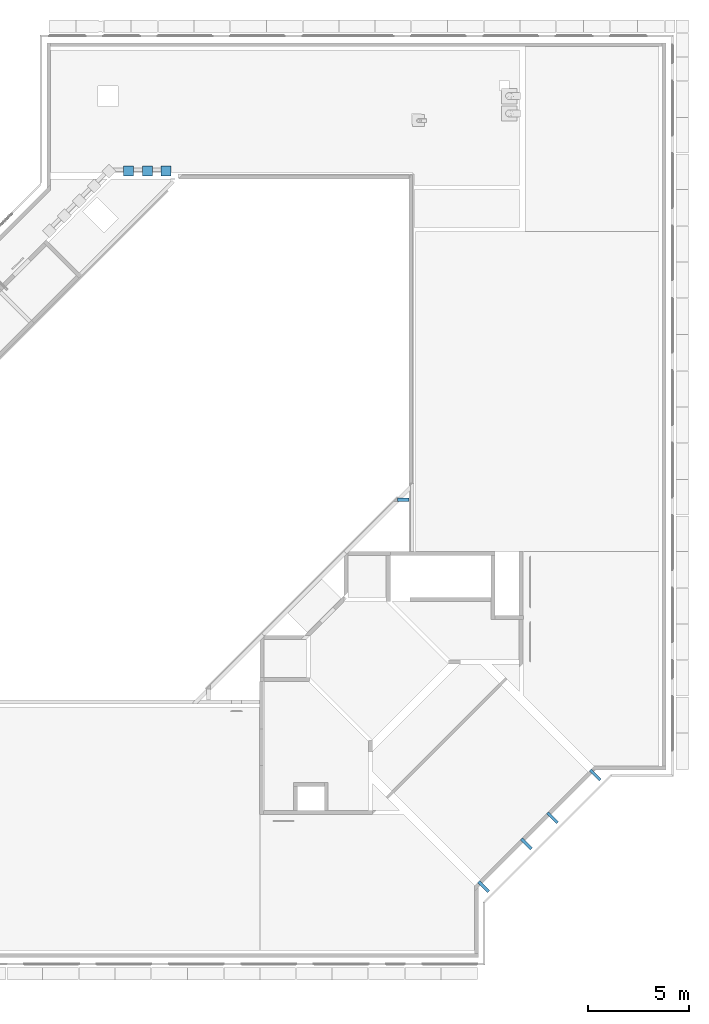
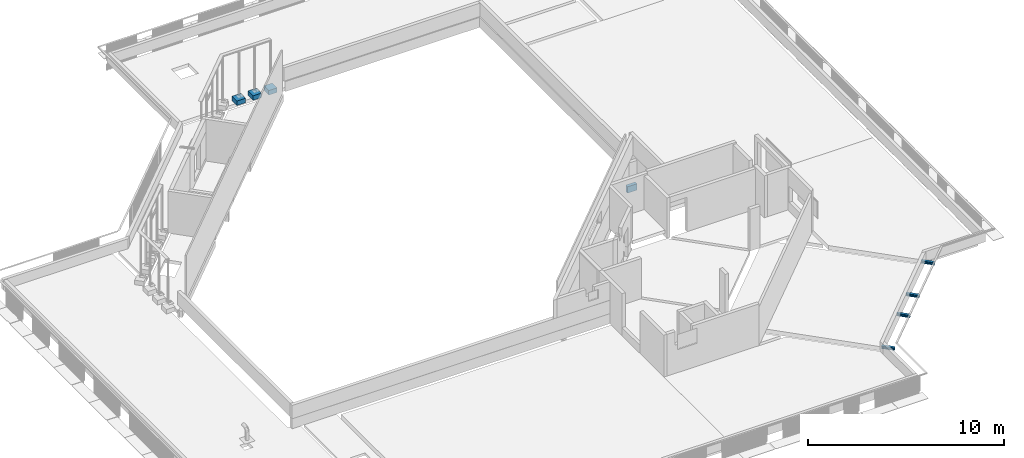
# One storey, part 3 of 37: 8 beams.
"""IFC4X3_ADD2 building model written with IfcOpenShell, lengths in millimetres."""

from ifc_helpers import new_model, si_unit, direction, frame, frame_2d, origin_with_axes, origin_2d_with_axis, place, context, subcontext, project, spatial, polyline, rectangle, outline, extrude, source, transform, mapped, material, type_object, type_shapes, element, save


model = new_model("IFC4X3_ADD2")

# Units and contexts
model_context = context("Model", 3, precision=1e-05, world=origin_with_axes(), true_north=direction((0.0, 1.0)))
body_context = subcontext(model_context, "Body", "Model", "MODEL_VIEW")
ifc_project = project(units=[si_unit("LENGTHUNIT", "METRE", prefix="MILLI"), si_unit("AREAUNIT", "SQUARE_METRE"), si_unit("VOLUMEUNIT", "CUBIC_METRE"), si_unit("PLANEANGLEUNIT", "RADIAN"), si_unit("TIMEUNIT", "SECOND"), si_unit("MASSUNIT", "GRAM")], contexts=[model_context])

# Site, building, storey
site_placement = place(None, origin_with_axes())
site = spatial("IfcSite", under=ifc_project, at=site_placement, Name="Site", CompositionType="ELEMENT")
building_placement = place(site_placement, origin_with_axes())
building = spatial("IfcBuilding", under=site, at=building_placement, Name="IFC Building Story")
storey_placement = place(building_placement, frame((0.0, 0.0, 14400.0), z_axis=(0.0, 0.0, 1.0), x_axis=(1.0, 0.0, 0.0)))
storey = spatial("IfcBuildingStorey", under=building, at=storey_placement, Name="040", Elevation=14400.0)

# Beams
ifc_material_1 = material(Name="Metal - Steel - 345 MPa")
beam_type_1 = type_object("IfcBeamType", Name="VHG_28_HEA Beams_HE140M", PredefinedType="NOTDEFINED")
shared_shape_1 = source(origin_with_axes(), body_context, "Body", "SweptSolid", [
    extrude(outline(polyline([(79.99999999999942, 73.0), (79.99999999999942, -72.99999999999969), (58.0, -72.99999999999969), (58.0, -6.500000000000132), (-57.99999999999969, -6.500000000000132), (-57.99999999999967, -73.0), (-80.0, -73.0), (-80.0, 73.0), (-57.99999999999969, 73.0), (-57.99999999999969, 6.499999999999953), (58.0, 6.499999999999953), (58.0, 73.0), (79.99999999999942, 73.0)])), frame((-350.0, 0.0, 0.0), z_axis=(1.0, 0.0, 0.0), x_axis=(0.0, 0.0, 1.0)), (0.0, 0.0, 1.0), 700.0),
])
type_shapes(beam_type_1, [shared_shape_1])
for number, where, z_axis, x_axis, name in (
    (1, (-8974.63318550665, 3428.08759387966, -90.0), (0.0, 0.0, 1.0), (0.7071067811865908, -0.7071067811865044, 0.0), "VHG_28_HEA Beams:HE140M"),
    (2, (-6848.3630944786, 5554.35768490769, -90.0), (0.0, 0.0, 1.0), (0.7071067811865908, -0.7071067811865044, 0.0), "VHG_28_HEA Beams:HE140M"),
    (3, (-5554.31104452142, 6848.40973486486, -90.0), (0.0, 0.0, 1.0), (0.7071067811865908, -0.7071067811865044, 0.0), "VHG_28_HEA Beams:HE140M"),
    (4, (-3428.08759387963, 8974.63318550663, -90.0), (0.0, 0.0, 1.0), (0.7071067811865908, -0.7071067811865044, 0.0), "VHG_28_HEA Beams:HE140M"),
):
    element("IfcBeam", number, at=place(storey_placement, frame(where, z_axis=z_axis, x_axis=x_axis)), inside=storey, type_object=beam_type_1, material=ifc_material_1, Name=name, ObjectType="HE140M", PredefinedType="BEAM", context=body_context, shape_type="MappedRepresentation", body=[
        mapped(shared_shape_1, transform((0.0, 0.0, 0.0))),
    ])
ifc_material_2 = material(Name="BB_Beton_Bestaand")
beam_type_2 = type_object("IfcBeamType", Name="BB_XX_Betonbalk_ rechthoekig_ center-center_SFB_190 x 400 mm41", PredefinedType="NOTDEFINED")
shared_shape_2 = source(origin_with_axes(), body_context, "Body", "SweptSolid", [
    extrude(rectangle(XDim=558.9952580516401, YDim=190.0, at=origin_2d_with_axis()), frame((-12974.49762902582, 22660.0, 13800.0), z_axis=(0.0, 0.0, 1.0), x_axis=(1.0, 0.0, 0.0)), (0.0, 0.0, 1.0), 400.0),
])
type_shapes(beam_type_2, [shared_shape_2])
beam_placement = place(storey_placement, frame((0.0, 0.0, -14400.0), z_axis=(0.0, 0.0, 1.0), x_axis=(1.0, 0.0, 0.0)))
element("IfcBeam", 5, at=beam_placement, inside=storey, type_object=beam_type_2, material=ifc_material_2, Name="BB_XX_Betonbalk, rechthoekig, center-center_SFB:190 x 400 mm", ObjectType="190 x 400 mm", PredefinedType="BEAM", context=body_context, shape_type="MappedRepresentation", body=[
    mapped(shared_shape_2, transform((0.0, 0.0, 0.0))),
])
beam_type_3 = type_object("IfcBeamType", Name="BB_XX_Betonbalk_ rechthoekig_ center-center_SFB_500 x 280 mm", PredefinedType="NOTDEFINED")
shared_shape_3 = source(origin_with_axes(), body_context, "Body", "SweptSolid", [
    extrude(rectangle(XDim=500.0, YDim=500.000000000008, at=frame_2d((0.0, 0.0), x_axis=(0.0, 1.0))), frame((1.542224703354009, 0.0, -140.0), z_axis=(0.0, 0.0, 1.0), x_axis=(1.0, 0.0, 0.0)), (0.0, 0.0, 1.0), 280.0),
])
type_shapes(beam_type_3, [shared_shape_3])
for number, where, z_axis, x_axis in (
    (6, (-26627.5526727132, 39010.0, -60.0), (0.0, 0.0, 1.0), (0.0, 1.0, 0.0)),
    (7, (-25697.5526727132, 39010.0, -60.0), (0.0, 0.0, 1.0), (0.0, 1.0, 0.0)),
    (8, (-24767.5526727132, 39010.0, -60.0), (0.0, 0.0, 1.0), (0.0, 1.0, 0.0)),
):
    element("IfcBeam", number, at=place(storey_placement, frame(where, z_axis=z_axis, x_axis=x_axis)), inside=storey, type_object=beam_type_3, material=ifc_material_2, Name="BB_XX_Betonbalk, rechthoekig, center-center_SFB:500 x 280 mm", ObjectType="500 x 280 mm", PredefinedType="BEAM", context=body_context, shape_type="MappedRepresentation", body=[
        mapped(shared_shape_3, transform((0.0, 0.0, 0.0))),
    ])

save(model, "model.ifc")
